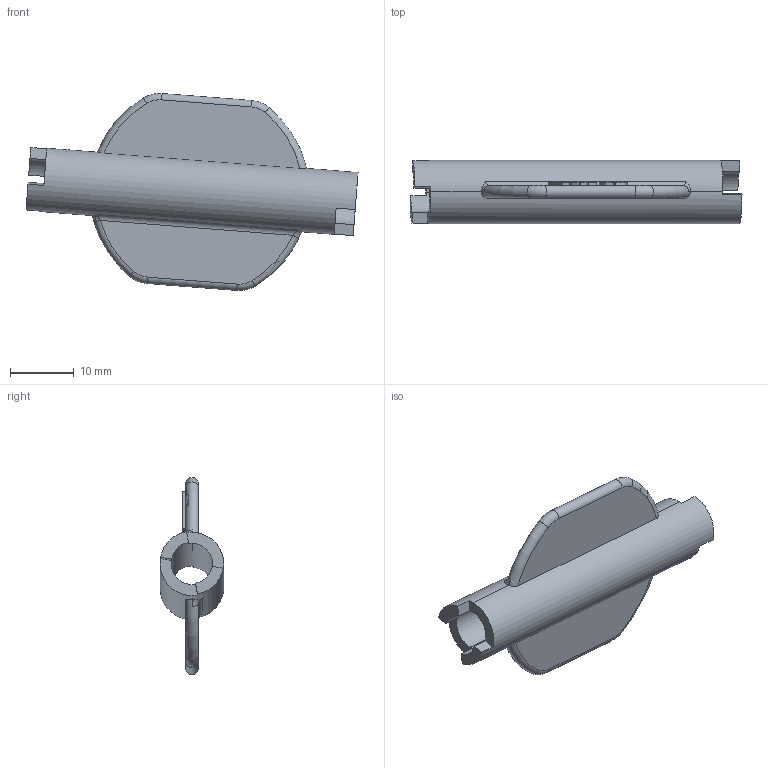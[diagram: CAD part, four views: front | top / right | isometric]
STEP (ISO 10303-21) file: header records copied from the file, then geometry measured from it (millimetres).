
FILE_DESCRIPTION((''),'2;1');
FILE_NAME('0000237129_PRT','2025-11-12T18:36:30',('Wyndorps'),(''),'CREO PARAMETRIC BY PTC INC, 2025010','CREO PARAMETRIC BY PTC INC, 2025010','');
FILE_SCHEMA(('CONFIG_CONTROL_DESIGN'));
Length unit declared in the file: millimetre
Products named in the file (1): 0000237129_PRT
Bounding box: 52.2 x 10 x 30.96 mm (x, y, z)
Volume: 3281 mm3; surface area: 3735.4 mm2
Topology: 1 solids, 1 shells, 95 faces, 262 edges, 172 vertices
Faces by surface type: plane 51, extrusion 20, cylinder 12, torus 8, bspline 4
Entity records: 3489 total; most frequent: CARTESIAN_POINT 1104, ORIENTED_EDGE 524, DIRECTION 420, EDGE_CURVE 262, VERTEX_POINT 172, VECTOR 166, LINE 146, AXIS2_PLACEMENT_3D 127
